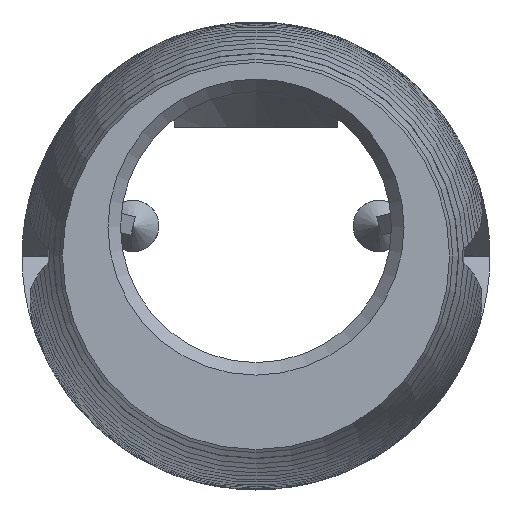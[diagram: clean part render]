
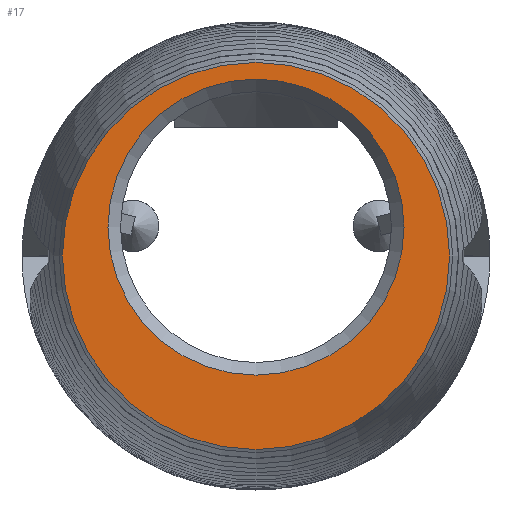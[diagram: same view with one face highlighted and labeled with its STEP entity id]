
A CAD part, left-side view. The second image highlights one B-rep face of the part: STEP entity #17.
In plain terms, the highlighted planar face has unit normal (-1, 0, 0).
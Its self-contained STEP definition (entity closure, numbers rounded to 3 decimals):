
#17 = ADVANCED_FACE('',(#18,#54),#31,.F.);
#18 = FACE_BOUND('',#19,.F.);
#19 = EDGE_LOOP('',(#20));
#20 = ORIENTED_EDGE('',*,*,#21,.F.);
#21 = EDGE_CURVE('',#22,#22,#24,.T.);
#22 = VERTEX_POINT('',#23);
#23 = CARTESIAN_POINT('',(18.4,0.,15.12));
#24 = SURFACE_CURVE('',#25,(#30,#42),.PCURVE_S1.);
#25 = CIRCLE('',#26,12.65);
#26 = AXIS2_PLACEMENT_3D('',#27,#28,#29);
#27 = CARTESIAN_POINT('',(18.4,0.,2.47));
#28 = DIRECTION('',(1.,0.,0.));
#29 = DIRECTION('',(-0.,0.,1.));
#30 = PCURVE('',#31,#36);
#31 = PLANE('',#32);
#32 = AXIS2_PLACEMENT_3D('',#33,#34,#35);
#33 = CARTESIAN_POINT('',(18.4,-30.,-30.));
#34 = DIRECTION('',(1.,0.,-0.));
#35 = DIRECTION('',(0.,0.,1.));
#36 = DEFINITIONAL_REPRESENTATION('',(#37),#41);
#37 = CIRCLE('',#38,12.65);
#38 = AXIS2_PLACEMENT_2D('',#39,#40);
#39 = CARTESIAN_POINT('',(32.47,-30.));
#40 = DIRECTION('',(1.,0.));
#41 = ( GEOMETRIC_REPRESENTATION_CONTEXT(2) 
PARAMETRIC_REPRESENTATION_CONTEXT() REPRESENTATION_CONTEXT('2D SPACE',''
  ) );
#42 = PCURVE('',#43,#48);
#43 = CYLINDRICAL_SURFACE('',#44,12.65);
#44 = AXIS2_PLACEMENT_3D('',#45,#46,#47);
#45 = CARTESIAN_POINT('',(17.4,0.,2.47));
#46 = DIRECTION('',(1.,0.,0.));
#47 = DIRECTION('',(-0.,0.,1.));
#48 = DEFINITIONAL_REPRESENTATION('',(#49),#53);
#49 = LINE('',#50,#51);
#50 = CARTESIAN_POINT('',(0.,1.));
#51 = VECTOR('',#52,1.);
#52 = DIRECTION('',(1.,0.));
#53 = ( GEOMETRIC_REPRESENTATION_CONTEXT(2) 
PARAMETRIC_REPRESENTATION_CONTEXT() REPRESENTATION_CONTEXT('2D SPACE',''
  ) );
#54 = FACE_BOUND('',#55,.F.);
#55 = EDGE_LOOP('',(#56));
#56 = ORIENTED_EDGE('',*,*,#57,.F.);
#57 = EDGE_CURVE('',#58,#58,#60,.T.);
#58 = VERTEX_POINT('',#59);
#59 = CARTESIAN_POINT('',(18.4,16.544,0.));
#60 = SURFACE_CURVE('',#61,(#66,#77),.PCURVE_S1.);
#61 = CIRCLE('',#62,16.544);
#62 = AXIS2_PLACEMENT_3D('',#63,#64,#65);
#63 = CARTESIAN_POINT('',(18.4,0.,0.));
#64 = DIRECTION('',(-1.,-0.,0.));
#65 = DIRECTION('',(-0.,1.,0.));
#66 = PCURVE('',#31,#67);
#67 = DEFINITIONAL_REPRESENTATION('',(#68),#76);
#68 = ( BOUNDED_CURVE() B_SPLINE_CURVE(2,(#69,#70,#71,#72,#73,#74,#75),
.UNSPECIFIED.,.T.,.F.) B_SPLINE_CURVE_WITH_KNOTS((1,2,2,2,2,1),(
    -2.094,0.,2.094,4.189,6.283,
8.378),.UNSPECIFIED.) CURVE() GEOMETRIC_REPRESENTATION_ITEM() 
RATIONAL_B_SPLINE_CURVE((1.,0.5,1.,0.5,1.,0.5,1.)) REPRESENTATION_ITEM(
  '') );
#69 = CARTESIAN_POINT('',(30.,-46.544));
#70 = CARTESIAN_POINT('',(1.345,-46.544));
#71 = CARTESIAN_POINT('',(15.672,-21.728));
#72 = CARTESIAN_POINT('',(30.,3.088));
#73 = CARTESIAN_POINT('',(44.328,-21.728));
#74 = CARTESIAN_POINT('',(58.655,-46.544));
#75 = CARTESIAN_POINT('',(30.,-46.544));
#76 = ( GEOMETRIC_REPRESENTATION_CONTEXT(2) 
PARAMETRIC_REPRESENTATION_CONTEXT() REPRESENTATION_CONTEXT('2D SPACE',''
  ) );
#77 = PCURVE('',#78,#83);
#78 = CONICAL_SURFACE('',#79,16.544,0.305);
#79 = AXIS2_PLACEMENT_3D('',#80,#81,#82);
#80 = CARTESIAN_POINT('',(18.4,0.,0.));
#81 = DIRECTION('',(1.,0.,0.));
#82 = DIRECTION('',(-0.,1.,0.));
#83 = DEFINITIONAL_REPRESENTATION('',(#84),#88);
#84 = LINE('',#85,#86);
#85 = CARTESIAN_POINT('',(6.283,0.));
#86 = VECTOR('',#87,1.);
#87 = DIRECTION('',(-1.,-0.));
#88 = ( GEOMETRIC_REPRESENTATION_CONTEXT(2) 
PARAMETRIC_REPRESENTATION_CONTEXT() REPRESENTATION_CONTEXT('2D SPACE',''
  ) );
